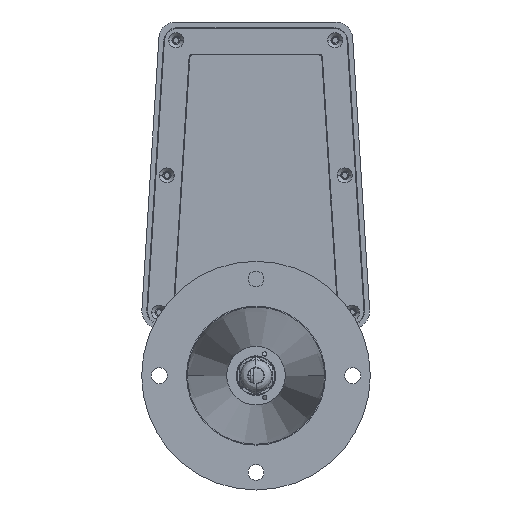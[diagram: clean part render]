
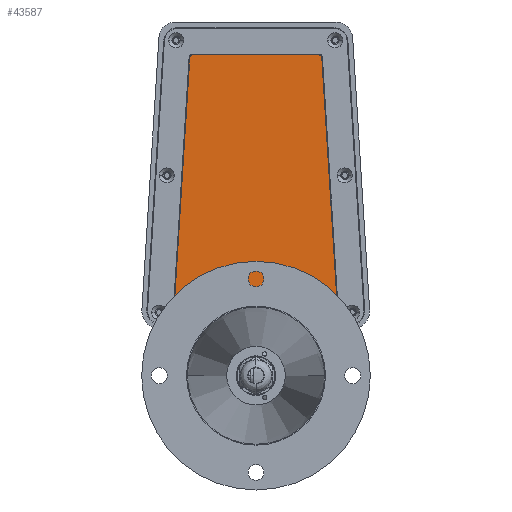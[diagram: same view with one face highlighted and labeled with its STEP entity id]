
A CAD part, front view. The second image highlights one B-rep face of the part: STEP entity #43587.
In plain terms, the highlighted planar face has unit normal (0, -1, 0) as drawn and (0, 0, -1) by its records, which use the part's own axes.
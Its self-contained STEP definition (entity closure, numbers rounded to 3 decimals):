
#41564=CARTESIAN_POINT('',(35.558,64.44,-2.5));
#41565=DIRECTION('',(0.,0.,-1.));
#41566=DIRECTION('',(0.,1.,0.));
#41567=AXIS2_PLACEMENT_3D('',#41564,#41565,#41566);
#41569=CARTESIAN_POINT('',(-35.558,64.44,-2.5));
#41570=DIRECTION('',(0.,0.,-1.));
#41571=DIRECTION('',(-0.998,0.062,0.));
#41572=AXIS2_PLACEMENT_3D('',#41569,#41570,#41571);
#41574=CARTESIAN_POINT('',(-43.973,-70.2,-2.5));
#41575=DIRECTION('',(0.,0.,-1.));
#41576=DIRECTION('',(0.,-1.,0.));
#41577=AXIS2_PLACEMENT_3D('',#41574,#41575,#41576);
#41579=CARTESIAN_POINT('',(43.973,-70.2,-2.5));
#41580=DIRECTION('',(0.,0.,-1.));
#41581=DIRECTION('',(0.998,0.062,0.));
#41582=AXIS2_PLACEMENT_3D('',#41579,#41580,#41581);
#41584=DIRECTION('',(-0.062,0.998,0.));
#41585=VECTOR('',#41584,134.903);
#41586=CARTESIAN_POINT('',(45.936,-70.077,-2.5));
#41587=LINE('',#41586,#41585);
#41622=DIRECTION('',(-1.,0.,0.));
#41623=VECTOR('',#41622,87.945);
#41624=CARTESIAN_POINT('',(43.973,-72.167,-2.5));
#41625=LINE('',#41624,#41623);
#41643=DIRECTION('',(0.062,0.998,0.));
#41644=VECTOR('',#41643,134.903);
#41645=CARTESIAN_POINT('',(-45.936,-70.077,-2.5));
#41646=LINE('',#41645,#41644);
#41664=DIRECTION('',(1.,0.,0.));
#41665=VECTOR('',#41664,71.115);
#41666=CARTESIAN_POINT('',(-35.558,66.407,-2.5));
#41667=LINE('',#41666,#41665);
#43416=CARTESIAN_POINT('',(35.558,66.407,-2.5));
#43417=CARTESIAN_POINT('',(37.521,64.563,-2.5));
#43418=VERTEX_POINT('',#43416);
#43419=VERTEX_POINT('',#43417);
#43420=CARTESIAN_POINT('',(-37.521,64.563,-2.5));
#43421=CARTESIAN_POINT('',(-35.558,66.407,-2.5));
#43422=VERTEX_POINT('',#43420);
#43423=VERTEX_POINT('',#43421);
#43424=CARTESIAN_POINT('',(-43.973,-72.167,-2.5));
#43425=CARTESIAN_POINT('',(-45.936,-70.077,-2.5));
#43426=VERTEX_POINT('',#43424);
#43427=VERTEX_POINT('',#43425);
#43428=CARTESIAN_POINT('',(45.936,-70.077,-2.5));
#43429=CARTESIAN_POINT('',(43.973,-72.167,-2.5));
#43430=VERTEX_POINT('',#43428);
#43431=VERTEX_POINT('',#43429);
#43564=CARTESIAN_POINT('',(0.,0.,-2.5));
#43565=DIRECTION('',(0.,0.,1.));
#43566=DIRECTION('',(1.,0.,0.));
#43567=AXIS2_PLACEMENT_3D('',#43564,#43565,#43566);
#43568=PLANE('',#43567);
#43570=ORIENTED_EDGE('',*,*,#43569,.F.);
#43572=ORIENTED_EDGE('',*,*,#43571,.F.);
#43574=ORIENTED_EDGE('',*,*,#43573,.F.);
#43576=ORIENTED_EDGE('',*,*,#43575,.F.);
#43578=ORIENTED_EDGE('',*,*,#43577,.F.);
#43580=ORIENTED_EDGE('',*,*,#43579,.F.);
#43582=ORIENTED_EDGE('',*,*,#43581,.F.);
#43584=ORIENTED_EDGE('',*,*,#43583,.T.);
#43585=EDGE_LOOP('',(#43570,#43572,#43574,#43576,#43578,#43580,#43582,#43584));
#43586=FACE_OUTER_BOUND('',#43585,.F.);
#43587=ADVANCED_FACE('',(#43586),#43568,.F.);
#41568=CIRCLE('',#41567,1.967);
#41573=CIRCLE('',#41572,1.967);
#41578=CIRCLE('',#41577,1.967);
#41583=CIRCLE('',#41582,1.967);
#43569=EDGE_CURVE('',#43418,#43419,#41568,.T.);
#43571=EDGE_CURVE('',#43423,#43418,#41667,.T.);
#43573=EDGE_CURVE('',#43422,#43423,#41573,.T.);
#43575=EDGE_CURVE('',#43427,#43422,#41646,.T.);
#43577=EDGE_CURVE('',#43426,#43427,#41578,.T.);
#43579=EDGE_CURVE('',#43431,#43426,#41625,.T.);
#43581=EDGE_CURVE('',#43430,#43431,#41583,.T.);
#43583=EDGE_CURVE('',#43430,#43419,#41587,.T.);
